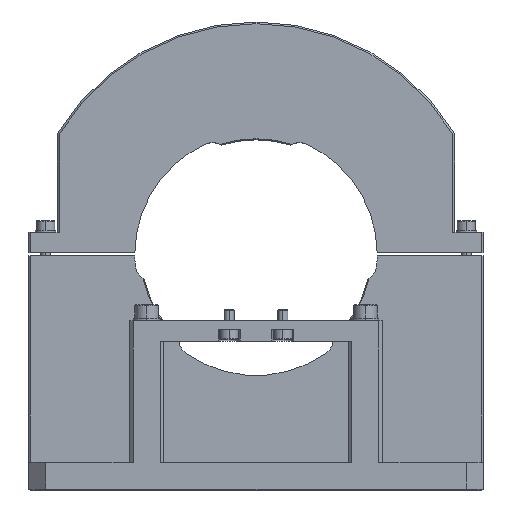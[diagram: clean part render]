
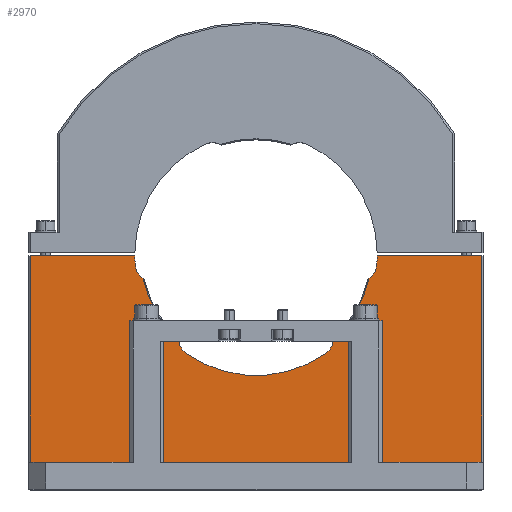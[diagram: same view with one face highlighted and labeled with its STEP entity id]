
A CAD part, top view. The second image highlights one B-rep face of the part: STEP entity #2970.
In plain terms, the highlighted planar face has unit normal (0, 0, 1).
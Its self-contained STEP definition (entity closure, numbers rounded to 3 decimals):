
#468 = CARTESIAN_POINT ( 'NONE',  ( 0., 0., -93.33 ) ) ;
#582 = AXIS2_PLACEMENT_3D ( 'NONE', #11346, #749, #2864 ) ;
#607 = LINE ( 'NONE', #5731, #5986 ) ;
#646 = CARTESIAN_POINT ( 'NONE',  ( 35.997, -0.5, -93.33 ) ) ;
#688 = VERTEX_POINT ( 'NONE', #7555 ) ;
#749 = DIRECTION ( 'NONE',  ( 0., 0., -1. ) ) ;
#928 = EDGE_CURVE ( 'NONE', #8292, #4961, #2784, .T. ) ;
#935 = DIRECTION ( 'NONE',  ( 0., -1., 0. ) ) ;
#1132 = DIRECTION ( 'NONE',  ( -1., 0., 0. ) ) ;
#1330 = CARTESIAN_POINT ( 'NONE',  ( -30.384, -2.658, -93.33 ) ) ;
#1409 = ORIENTED_EDGE ( 'NONE', *, *, #9214, .T. ) ;
#1588 = VECTOR ( 'NONE', #10956, 1000. ) ;
#1782 = CIRCLE ( 'NONE', #5942, 5.5 ) ;
#1830 = CIRCLE ( 'NONE', #10071, 34.3 ) ;
#1889 = CIRCLE ( 'NONE', #582, 34.3 ) ;
#1953 = DIRECTION ( 'NONE',  ( -1., 0., 0. ) ) ;
#2164 = CIRCLE ( 'NONE', #9747, 36. ) ;
#2418 = CARTESIAN_POINT ( 'NONE',  ( 0., 0., -93.33 ) ) ;
#2443 = DIRECTION ( 'NONE',  ( -1., 0., 0. ) ) ;
#2556 = CARTESIAN_POINT ( 'NONE',  ( 17.494, -24.984, -93.33 ) ) ;
#2633 = CARTESIAN_POINT ( 'NONE',  ( 67., -62., -93.33 ) ) ;
#2784 = LINE ( 'NONE', #13394, #6558 ) ;
#2823 = ORIENTED_EDGE ( 'NONE', *, *, #10125, .T. ) ;
#2864 = DIRECTION ( 'NONE',  ( -1., 0., 0. ) ) ;
#2892 = EDGE_CURVE ( 'NONE', #12931, #9195, #2164, .T. ) ;
#2899 = ORIENTED_EDGE ( 'NONE', *, *, #2892, .T. ) ;
#2970 = ADVANCED_FACE ( 'NONE', ( #12830 ), #7840, .F. ) ;
#3162 = AXIS2_PLACEMENT_3D ( 'NONE', #5402, #12526, #3213 ) ;
#3213 = DIRECTION ( 'NONE',  ( -1., 0., 0. ) ) ;
#3287 = EDGE_CURVE ( 'NONE', #6829, #3727, #12627, .T. ) ;
#3303 = DIRECTION ( 'NONE',  ( -1., 0., 0. ) ) ;
#3494 = CARTESIAN_POINT ( 'NONE',  ( -35.863, -3.138, -93.33 ) ) ;
#3501 = DIRECTION ( 'NONE',  ( -1., 0., 0. ) ) ;
#3520 = ORIENTED_EDGE ( 'NONE', *, *, #4811, .T. ) ;
#3576 = CARTESIAN_POINT ( 'NONE',  ( -67., -0.5, -93.33 ) ) ;
#3613 = AXIS2_PLACEMENT_3D ( 'NONE', #12936, #12869, #3501 ) ;
#3675 = ORIENTED_EDGE ( 'NONE', *, *, #4904, .T. ) ;
#3717 = DIRECTION ( 'NONE',  ( -1., 0., 0. ) ) ;
#3727 = VERTEX_POINT ( 'NONE', #3494 ) ;
#3749 = DIRECTION ( 'NONE',  ( -1., 0., 0. ) ) ;
#3761 = CARTESIAN_POINT ( 'NONE',  ( -35.997, -0.5, -93.33 ) ) ;
#4135 = DIRECTION ( 'NONE',  ( 0., 0., -1. ) ) ;
#4169 = ORIENTED_EDGE ( 'NONE', *, *, #6962, .T. ) ;
#4393 = AXIS2_PLACEMENT_3D ( 'NONE', #1330, #4135, #3303 ) ;
#4801 = CARTESIAN_POINT ( 'NONE',  ( 67., -0.5, -93.33 ) ) ;
#4811 = EDGE_CURVE ( 'NONE', #8554, #8292, #9785, .T. ) ;
#4904 = EDGE_CURVE ( 'NONE', #688, #6829, #1889, .T. ) ;
#4961 = VERTEX_POINT ( 'NONE', #12185 ) ;
#4971 = CARTESIAN_POINT ( 'NONE',  ( 20.649, -29.489, -93.33 ) ) ;
#5372 = CARTESIAN_POINT ( 'NONE',  ( 0., 0., -93.33 ) ) ;
#5402 = CARTESIAN_POINT ( 'NONE',  ( 30.384, -2.658, -93.33 ) ) ;
#5530 = EDGE_CURVE ( 'NONE', #10874, #12931, #1782, .T. ) ;
#5643 = DIRECTION ( 'NONE',  ( -1., 0., 0. ) ) ;
#5731 = CARTESIAN_POINT ( 'NONE',  ( 67.5, -0.5, -93.33 ) ) ;
#5942 = AXIS2_PLACEMENT_3D ( 'NONE', #2556, #11874, #3717 ) ;
#5986 = VECTOR ( 'NONE', #2443, 1000. ) ;
#5992 = ORIENTED_EDGE ( 'NONE', *, *, #11147, .T. ) ;
#6269 = VERTEX_POINT ( 'NONE', #12653 ) ;
#6306 = ORIENTED_EDGE ( 'NONE', *, *, #9081, .T. ) ;
#6332 = DIRECTION ( 'NONE',  ( 0., 0., -1. ) ) ;
#6543 = ORIENTED_EDGE ( 'NONE', *, *, #3287, .T. ) ;
#6558 = VECTOR ( 'NONE', #935, 1000. ) ;
#6585 = EDGE_LOOP ( 'NONE', ( #3520, #11370, #7048, #4169, #6306, #5992, #2823, #1409, #12383, #2899, #10649, #3675, #6543, #9366 ) ) ;
#6829 = VERTEX_POINT ( 'NONE', #7392 ) ;
#6840 = LINE ( 'NONE', #4801, #1588 ) ;
#6883 = CIRCLE ( 'NONE', #3613, 5.5 ) ;
#6887 = CARTESIAN_POINT ( 'NONE',  ( 67.5, -0.5, -93.33 ) ) ;
#6962 = EDGE_CURVE ( 'NONE', #10406, #6269, #6840, .T. ) ;
#7048 = ORIENTED_EDGE ( 'NONE', *, *, #11820, .F. ) ;
#7230 = CARTESIAN_POINT ( 'NONE',  ( 22.973, -25.471, -93.33 ) ) ;
#7392 = CARTESIAN_POINT ( 'NONE',  ( -33.544, -7.159, -93.33 ) ) ;
#7467 = DIRECTION ( 'NONE',  ( -1., 0., 0. ) ) ;
#7555 = CARTESIAN_POINT ( 'NONE',  ( -22.973, -25.471, -93.33 ) ) ;
#7840 = PLANE ( 'NONE',  #9114 ) ;
#7951 = AXIS2_PLACEMENT_3D ( 'NONE', #468, #13202, #3749 ) ;
#8084 = VERTEX_POINT ( 'NONE', #9430 ) ;
#8292 = VERTEX_POINT ( 'NONE', #3576 ) ;
#8399 = AXIS2_PLACEMENT_3D ( 'NONE', #12228, #10183, #1953 ) ;
#8554 = VERTEX_POINT ( 'NONE', #3761 ) ;
#8720 = VERTEX_POINT ( 'NONE', #11230 ) ;
#8728 = DIRECTION ( 'NONE',  ( 0., 0., -1. ) ) ;
#8760 = DIRECTION ( 'NONE',  ( -1., 0., 0. ) ) ;
#8811 = VECTOR ( 'NONE', #8760, 1000. ) ;
#9081 = EDGE_CURVE ( 'NONE', #6269, #13308, #607, .T. ) ;
#9114 = AXIS2_PLACEMENT_3D ( 'NONE', #2418, #8728, #5643 ) ;
#9160 = DIRECTION ( 'NONE',  ( -1., 0., 0. ) ) ;
#9195 = VERTEX_POINT ( 'NONE', #11074 ) ;
#9214 = EDGE_CURVE ( 'NONE', #8084, #10874, #1830, .T. ) ;
#9366 = ORIENTED_EDGE ( 'NONE', *, *, #12918, .T. ) ;
#9430 = CARTESIAN_POINT ( 'NONE',  ( 33.544, -7.159, -93.33 ) ) ;
#9465 = CIRCLE ( 'NONE', #7951, 36. ) ;
#9479 = CIRCLE ( 'NONE', #8399, 36. ) ;
#9747 = AXIS2_PLACEMENT_3D ( 'NONE', #5372, #6332, #7467 ) ;
#9785 = LINE ( 'NONE', #6887, #8811 ) ;
#10071 = AXIS2_PLACEMENT_3D ( 'NONE', #12241, #12309, #9160 ) ;
#10125 = EDGE_CURVE ( 'NONE', #8720, #8084, #11850, .T. ) ;
#10183 = DIRECTION ( 'NONE',  ( 0., 0., -1. ) ) ;
#10406 = VERTEX_POINT ( 'NONE', #2633 ) ;
#10573 = VECTOR ( 'NONE', #1132, 1000. ) ;
#10649 = ORIENTED_EDGE ( 'NONE', *, *, #10674, .T. ) ;
#10674 = EDGE_CURVE ( 'NONE', #9195, #688, #6883, .T. ) ;
#10874 = VERTEX_POINT ( 'NONE', #7230 ) ;
#10956 = DIRECTION ( 'NONE',  ( 0., 1., 0. ) ) ;
#11074 = CARTESIAN_POINT ( 'NONE',  ( -20.649, -29.489, -93.33 ) ) ;
#11147 = EDGE_CURVE ( 'NONE', #13308, #8720, #9465, .T. ) ;
#11230 = CARTESIAN_POINT ( 'NONE',  ( 35.863, -3.138, -93.33 ) ) ;
#11346 = CARTESIAN_POINT ( 'NONE',  ( 0., 0., -93.33 ) ) ;
#11370 = ORIENTED_EDGE ( 'NONE', *, *, #928, .T. ) ;
#11600 = CARTESIAN_POINT ( 'NONE',  ( 67.5, -62., -93.33 ) ) ;
#11820 = EDGE_CURVE ( 'NONE', #10406, #4961, #12630, .T. ) ;
#11850 = CIRCLE ( 'NONE', #3162, 5.5 ) ;
#11874 = DIRECTION ( 'NONE',  ( 0., 0., -1. ) ) ;
#12185 = CARTESIAN_POINT ( 'NONE',  ( -67., -62., -93.33 ) ) ;
#12228 = CARTESIAN_POINT ( 'NONE',  ( 0., 0., -93.33 ) ) ;
#12241 = CARTESIAN_POINT ( 'NONE',  ( 0., 0., -93.33 ) ) ;
#12309 = DIRECTION ( 'NONE',  ( 0., 0., -1. ) ) ;
#12383 = ORIENTED_EDGE ( 'NONE', *, *, #5530, .T. ) ;
#12526 = DIRECTION ( 'NONE',  ( 0., 0., -1. ) ) ;
#12627 = CIRCLE ( 'NONE', #4393, 5.5 ) ;
#12630 = LINE ( 'NONE', #11600, #10573 ) ;
#12653 = CARTESIAN_POINT ( 'NONE',  ( 67., -0.5, -93.33 ) ) ;
#12830 = FACE_OUTER_BOUND ( 'NONE', #6585, .T. ) ;
#12869 = DIRECTION ( 'NONE',  ( 0., 0., -1. ) ) ;
#12918 = EDGE_CURVE ( 'NONE', #3727, #8554, #9479, .T. ) ;
#12931 = VERTEX_POINT ( 'NONE', #4971 ) ;
#12936 = CARTESIAN_POINT ( 'NONE',  ( -17.494, -24.984, -93.33 ) ) ;
#13202 = DIRECTION ( 'NONE',  ( 0., 0., -1. ) ) ;
#13308 = VERTEX_POINT ( 'NONE', #646 ) ;
#13394 = CARTESIAN_POINT ( 'NONE',  ( -67., -62., -93.33 ) ) ;
